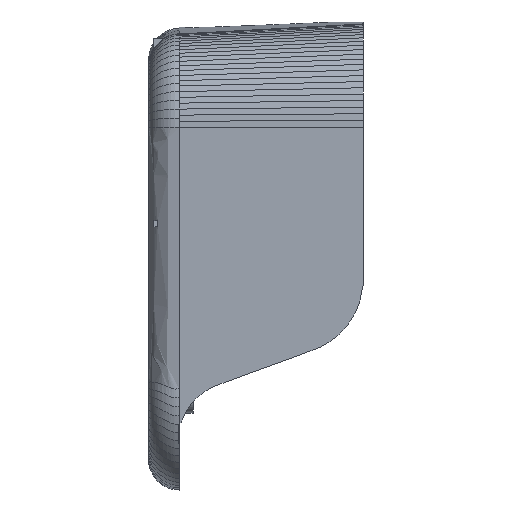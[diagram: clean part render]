
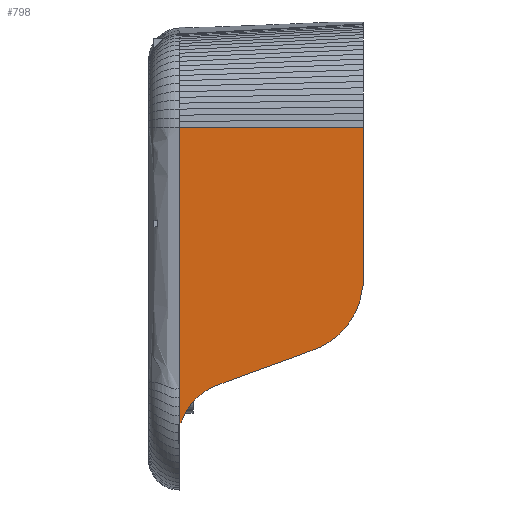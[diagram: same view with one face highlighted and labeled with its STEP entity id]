
A CAD part, front view. The second image highlights one B-rep face of the part: STEP entity #798.
In plain terms, the highlighted planar face has unit normal (-0.054, -0.999, 0).
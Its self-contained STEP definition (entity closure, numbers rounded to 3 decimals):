
#24 = VERTEX_POINT('',#25);
#25 = CARTESIAN_POINT('',(-66.5,-12.16,-0.799));
#105 = VERTEX_POINT('',#106);
#106 = CARTESIAN_POINT('',(-66.5,-12.16,0.987));
#112 = EDGE_CURVE('',#24,#105,#113,.T.);
#113 = LINE('',#114,#115);
#114 = CARTESIAN_POINT('',(-66.5,-12.16,-8.));
#115 = VECTOR('',#116,1.);
#116 = DIRECTION('',(-0.,-0.,1.));
#127 = EDGE_CURVE('',#128,#24,#130,.T.);
#128 = VERTEX_POINT('',#129);
#129 = CARTESIAN_POINT('',(-66.5,-12.16,-3.531));
#130 = LINE('',#131,#132);
#131 = CARTESIAN_POINT('',(-66.5,-12.16,-8.));
#132 = VECTOR('',#133,1.);
#133 = DIRECTION('',(-0.,-0.,1.));
#798 = ADVANCED_FACE('',(#799),#1023,.F.);
#799 = FACE_BOUND('',#800,.T.);
#800 = EDGE_LOOP('',(#801,#811,#819,#826,#831,#832,#833,#841,#849,#857,
    #865,#873,#881,#889,#897,#905,#913,#921,#929,#937,#945,#953,#961,
    #969,#977,#985,#993,#1001,#1009,#1017));
#801 = ORIENTED_EDGE('',*,*,#802,.T.);
#802 = EDGE_CURVE('',#803,#805,#807,.T.);
#803 = VERTEX_POINT('',#804);
#804 = CARTESIAN_POINT('',(-42.51,-13.466,14.97));
#805 = VERTEX_POINT('',#806);
#806 = CARTESIAN_POINT('',(-42.5,-13.467,15.109));
#807 = LINE('',#808,#809);
#808 = CARTESIAN_POINT('',(-43.338,-13.421,3.453)
  );
#809 = VECTOR('',#810,1.);
#810 = DIRECTION('',(0.072,-0.004,
    0.997));
#811 = ORIENTED_EDGE('',*,*,#812,.T.);
#812 = EDGE_CURVE('',#805,#813,#815,.T.);
#813 = VERTEX_POINT('',#814);
#814 = CARTESIAN_POINT('',(-42.5,-13.467,35.07));
#815 = LINE('',#816,#817);
#816 = CARTESIAN_POINT('',(-42.5,-13.467,-8.));
#817 = VECTOR('',#818,1.);
#818 = DIRECTION('',(-0.,-0.,1.));
#819 = ORIENTED_EDGE('',*,*,#820,.T.);
#820 = EDGE_CURVE('',#813,#821,#823,.T.);
#821 = VERTEX_POINT('',#822);
#822 = CARTESIAN_POINT('',(-66.5,-12.16,35.07));
#823 = B_SPLINE_CURVE_WITH_KNOTS('',1,(#824,#825),.UNSPECIFIED.,.F.,.F.,
  (2,2),(0.,1.),.PIECEWISE_BEZIER_KNOTS.);
#824 = CARTESIAN_POINT('',(-42.5,-13.467,35.07));
#825 = CARTESIAN_POINT('',(-66.5,-12.16,35.07));
#826 = ORIENTED_EDGE('',*,*,#827,.T.);
#827 = EDGE_CURVE('',#821,#105,#828,.T.);
#828 = B_SPLINE_CURVE_WITH_KNOTS('',1,(#829,#830),.UNSPECIFIED.,.F.,.F.,
  (2,2),(73.,74.),.PIECEWISE_BEZIER_KNOTS.);
#829 = CARTESIAN_POINT('',(-66.5,-12.16,35.07));
#830 = CARTESIAN_POINT('',(-66.5,-12.16,0.987));
#831 = ORIENTED_EDGE('',*,*,#112,.F.);
#832 = ORIENTED_EDGE('',*,*,#127,.F.);
#833 = ORIENTED_EDGE('',*,*,#834,.T.);
#834 = EDGE_CURVE('',#128,#835,#837,.T.);
#835 = VERTEX_POINT('',#836);
#836 = CARTESIAN_POINT('',(-66.25,-12.174,-3.36));
#837 = LINE('',#838,#839);
#838 = CARTESIAN_POINT('',(-67.354,-12.114,
    -4.117));
#839 = VECTOR('',#840,1.);
#840 = DIRECTION('',(0.824,-0.045,0.565));
#841 = ORIENTED_EDGE('',*,*,#842,.T.);
#842 = EDGE_CURVE('',#835,#843,#845,.T.);
#843 = VERTEX_POINT('',#844);
#844 = CARTESIAN_POINT('',(-66.,-12.187,-2.74));
#845 = LINE('',#846,#847);
#846 = CARTESIAN_POINT('',(-66.934,-12.136,
    -5.057));
#847 = VECTOR('',#848,1.);
#848 = DIRECTION('',(0.374,-0.02,0.927)
  );
#849 = ORIENTED_EDGE('',*,*,#850,.T.);
#850 = EDGE_CURVE('',#843,#851,#853,.T.);
#851 = VERTEX_POINT('',#852);
#852 = CARTESIAN_POINT('',(-65.5,-12.214,-1.79));
#853 = LINE('',#854,#855);
#854 = CARTESIAN_POINT('',(-66.868,-12.14,
    -4.39));
#855 = VECTOR('',#856,1.);
#856 = DIRECTION('',(0.466,-0.025,0.885)
  );
#857 = ORIENTED_EDGE('',*,*,#858,.T.);
#858 = EDGE_CURVE('',#851,#859,#861,.T.);
#859 = VERTEX_POINT('',#860);
#860 = CARTESIAN_POINT('',(-65.,-12.242,-1.08));
#861 = LINE('',#862,#863);
#862 = CARTESIAN_POINT('',(-66.847,-12.141,
    -3.703));
#863 = VECTOR('',#864,1.);
#864 = DIRECTION('',(0.575,-0.031,0.817));
#865 = ORIENTED_EDGE('',*,*,#866,.T.);
#866 = EDGE_CURVE('',#859,#867,#869,.T.);
#867 = VERTEX_POINT('',#868);
#868 = CARTESIAN_POINT('',(-64.5,-12.269,-0.49));
#869 = LINE('',#870,#871);
#870 = CARTESIAN_POINT('',(-66.732,-12.147,
    -3.123));
#871 = VECTOR('',#872,1.);
#872 = DIRECTION('',(0.646,-0.035,0.762)
  );
#873 = ORIENTED_EDGE('',*,*,#874,.T.);
#874 = EDGE_CURVE('',#867,#875,#877,.T.);
#875 = VERTEX_POINT('',#876);
#876 = CARTESIAN_POINT('',(-64.,-12.296,-0.01));
#877 = LINE('',#878,#879);
#878 = CARTESIAN_POINT('',(-66.599,-12.155,
    -2.505));
#879 = VECTOR('',#880,1.);
#880 = DIRECTION('',(0.721,-0.039,0.692)
  );
#881 = ORIENTED_EDGE('',*,*,#882,.T.);
#882 = EDGE_CURVE('',#875,#883,#885,.T.);
#883 = VERTEX_POINT('',#884);
#884 = CARTESIAN_POINT('',(-63.5,-12.323,0.39));
#885 = LINE('',#886,#887);
#886 = CARTESIAN_POINT('',(-66.406,-12.165,
    -1.935));
#887 = VECTOR('',#888,1.);
#888 = DIRECTION('',(0.78,-0.042,0.624));
#889 = ORIENTED_EDGE('',*,*,#890,.T.);
#890 = EDGE_CURVE('',#883,#891,#893,.T.);
#891 = VERTEX_POINT('',#892);
#892 = CARTESIAN_POINT('',(-63.,-12.351,0.74));
#893 = LINE('',#894,#895);
#894 = CARTESIAN_POINT('',(-66.167,-12.178,
    -1.477));
#895 = VECTOR('',#896,1.);
#896 = DIRECTION('',(0.818,-0.045,0.573)
  );
#897 = ORIENTED_EDGE('',*,*,#898,.T.);
#898 = EDGE_CURVE('',#891,#899,#901,.T.);
#899 = VERTEX_POINT('',#900);
#900 = CARTESIAN_POINT('',(-62.,-12.405,1.28));
#901 = LINE('',#902,#903);
#902 = CARTESIAN_POINT('',(-65.614,-12.208,
    -0.671));
#903 = VECTOR('',#904,1.);
#904 = DIRECTION('',(0.879,-0.048,0.475)
  );
#905 = ORIENTED_EDGE('',*,*,#906,.T.);
#906 = EDGE_CURVE('',#899,#907,#909,.T.);
#907 = VERTEX_POINT('',#908);
#908 = CARTESIAN_POINT('',(-60.,-12.514,2.04));
#909 = LINE('',#910,#911);
#910 = CARTESIAN_POINT('',(-64.433,-12.273,
    0.356));
#911 = VECTOR('',#912,1.);
#912 = DIRECTION('',(0.934,-0.051,0.355));
#913 = ORIENTED_EDGE('',*,*,#914,.T.);
#914 = EDGE_CURVE('',#907,#915,#917,.T.);
#915 = VERTEX_POINT('',#916);
#916 = CARTESIAN_POINT('',(-58.,-12.623,2.77));
#917 = LINE('',#918,#919);
#918 = CARTESIAN_POINT('',(-63.413,-12.328,
    0.794));
#919 = VECTOR('',#920,1.);
#920 = DIRECTION('',(0.938,-0.051,0.342));
#921 = ORIENTED_EDGE('',*,*,#922,.T.);
#922 = EDGE_CURVE('',#915,#923,#925,.T.);
#923 = VERTEX_POINT('',#924);
#924 = CARTESIAN_POINT('',(-52.,-12.95,4.95));
#925 = LINE('',#926,#927);
#926 = CARTESIAN_POINT('',(-60.418,-12.491,1.891
    ));
#927 = VECTOR('',#928,1.);
#928 = DIRECTION('',(0.939,-0.051,0.341)
  );
#929 = ORIENTED_EDGE('',*,*,#930,.T.);
#930 = EDGE_CURVE('',#923,#931,#933,.T.);
#931 = VERTEX_POINT('',#932);
#932 = CARTESIAN_POINT('',(-50.,-13.059,5.68));
#933 = LINE('',#934,#935);
#934 = CARTESIAN_POINT('',(-59.421,-12.545,2.241
    ));
#935 = VECTOR('',#936,1.);
#936 = DIRECTION('',(0.938,-0.051,0.342));
#937 = ORIENTED_EDGE('',*,*,#938,.T.);
#938 = EDGE_CURVE('',#931,#939,#941,.T.);
#939 = VERTEX_POINT('',#940);
#940 = CARTESIAN_POINT('',(-48.,-13.167,6.49));
#941 = LINE('',#942,#943);
#942 = CARTESIAN_POINT('',(-58.41,-12.601,
    2.274));
#943 = VECTOR('',#944,1.);
#944 = DIRECTION('',(0.926,-0.05,0.375)
  );
#945 = ORIENTED_EDGE('',*,*,#946,.T.);
#946 = EDGE_CURVE('',#939,#947,#949,.T.);
#947 = VERTEX_POINT('',#948);
#948 = CARTESIAN_POINT('',(-47.,-13.222,7.07));
#949 = LINE('',#950,#951);
#950 = CARTESIAN_POINT('',(-57.518,-12.649,
    0.97));
#951 = VECTOR('',#952,1.);
#952 = DIRECTION('',(0.864,-0.047,0.501)
  );
#953 = ORIENTED_EDGE('',*,*,#954,.T.);
#954 = EDGE_CURVE('',#947,#955,#957,.T.);
#955 = VERTEX_POINT('',#956);
#956 = CARTESIAN_POINT('',(-46.,-13.276,7.82));
#957 = LINE('',#958,#959);
#958 = CARTESIAN_POINT('',(-56.318,-12.714,
    0.082));
#959 = VECTOR('',#960,1.);
#960 = DIRECTION('',(0.799,-0.044,0.599)
  );
#961 = ORIENTED_EDGE('',*,*,#962,.T.);
#962 = EDGE_CURVE('',#955,#963,#965,.T.);
#963 = VERTEX_POINT('',#964);
#964 = CARTESIAN_POINT('',(-45.5,-13.304,8.28));
#965 = LINE('',#966,#967);
#966 = CARTESIAN_POINT('',(-55.212,-12.775,
    -0.655));
#967 = VECTOR('',#968,1.);
#968 = DIRECTION('',(0.735,-0.04,0.677)
  );
#969 = ORIENTED_EDGE('',*,*,#970,.T.);
#970 = EDGE_CURVE('',#963,#971,#973,.T.);
#971 = VERTEX_POINT('',#972);
#972 = CARTESIAN_POINT('',(-45.,-13.331,8.8));
#973 = LINE('',#974,#975);
#974 = CARTESIAN_POINT('',(-54.335,-12.823,
    -0.908));
#975 = VECTOR('',#976,1.);
#976 = DIRECTION('',(0.693,-0.038,0.72));
#977 = ORIENTED_EDGE('',*,*,#978,.T.);
#978 = EDGE_CURVE('',#971,#979,#981,.T.);
#979 = VERTEX_POINT('',#980);
#980 = CARTESIAN_POINT('',(-44.5,-13.358,9.42));
#981 = LINE('',#982,#983);
#982 = CARTESIAN_POINT('',(-53.071,-12.891,-1.208)
  );
#983 = VECTOR('',#984,1.);
#984 = DIRECTION('',(0.627,-0.034,0.778)
  );
#985 = ORIENTED_EDGE('',*,*,#986,.T.);
#986 = EDGE_CURVE('',#979,#987,#989,.T.);
#987 = VERTEX_POINT('',#988);
#988 = CARTESIAN_POINT('',(-44.,-13.385,10.15));
#989 = LINE('',#990,#991);
#990 = CARTESIAN_POINT('',(-51.808,-12.96,
    -1.25));
#991 = VECTOR('',#992,1.);
#992 = DIRECTION('',(0.565,-0.031,0.825)
  );
#993 = ORIENTED_EDGE('',*,*,#994,.T.);
#994 = EDGE_CURVE('',#987,#995,#997,.T.);
#995 = VERTEX_POINT('',#996);
#996 = CARTESIAN_POINT('',(-43.5,-13.413,11.06));
#997 = LINE('',#998,#999);
#998 = CARTESIAN_POINT('',(-50.179,-13.049,
    -1.096));
#999 = VECTOR('',#1000,1.);
#1000 = DIRECTION('',(0.481,-0.026,0.876)
  );
#1001 = ORIENTED_EDGE('',*,*,#1002,.T.);
#1002 = EDGE_CURVE('',#995,#1003,#1005,.T.);
#1003 = VERTEX_POINT('',#1004);
#1004 = CARTESIAN_POINT('',(-43.,-13.44,12.3));
#1005 = LINE('',#1006,#1007);
#1006 = CARTESIAN_POINT('',(-48.159,-13.159,
    -0.493));
#1007 = VECTOR('',#1008,1.);
#1008 = DIRECTION('',(0.374,-0.02,0.927)
  );
#1009 = ORIENTED_EDGE('',*,*,#1010,.T.);
#1010 = EDGE_CURVE('',#1003,#1011,#1013,.T.);
#1011 = VERTEX_POINT('',#1012);
#1012 = CARTESIAN_POINT('',(-42.55,-13.464,14.43));
#1013 = LINE('',#1014,#1015);
#1014 = CARTESIAN_POINT('',(-45.329,-13.313,
    1.278));
#1015 = VECTOR('',#1016,1.);
#1016 = DIRECTION('',(0.207,-0.011,0.978)
  );
#1017 = ORIENTED_EDGE('',*,*,#1018,.T.);
#1018 = EDGE_CURVE('',#1011,#803,#1019,.T.);
#1019 = LINE('',#1020,#1021);
#1020 = CARTESIAN_POINT('',(-43.421,-13.417,
    2.666));
#1021 = VECTOR('',#1022,1.);
#1022 = DIRECTION('',(0.074,-0.004,
    0.997));
#1023 = PLANE('',#1024);
#1024 = AXIS2_PLACEMENT_3D('',#1025,#1026,#1027);
#1025 = CARTESIAN_POINT('',(-66.5,-12.16,-8.));
#1026 = DIRECTION('',(0.054,0.999,-0.));
#1027 = DIRECTION('',(0.,-0.,-1.));
